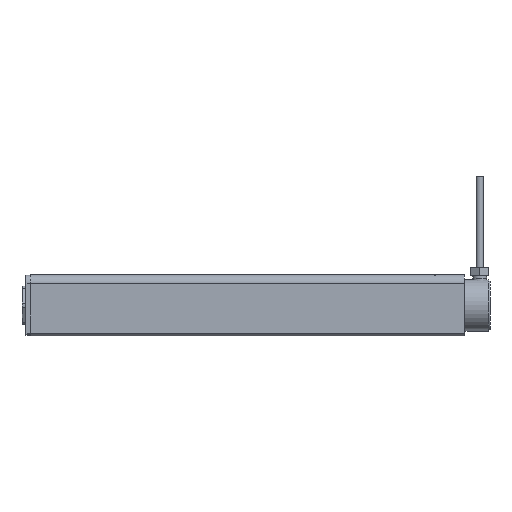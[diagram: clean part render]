
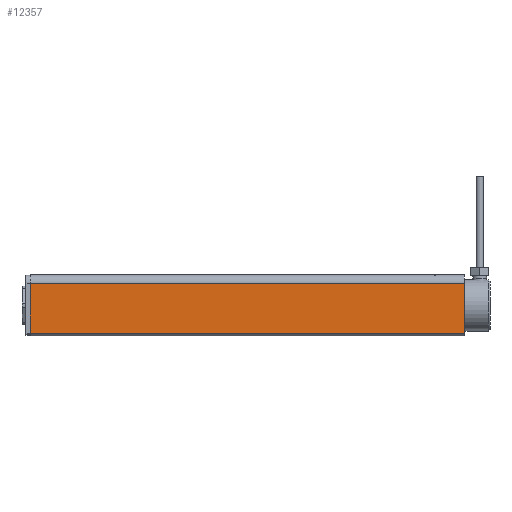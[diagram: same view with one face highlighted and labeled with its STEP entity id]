
A CAD part, left-side view. The second image highlights one B-rep face of the part: STEP entity #12357.
In plain terms, the highlighted planar face has unit normal (-1, 0, 0).
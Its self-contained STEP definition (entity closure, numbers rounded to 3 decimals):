
#627=PLANE('',#13211);
#863=LINE('',#18848,#1458);
#870=LINE('',#18870,#1465);
#891=LINE('',#18911,#1486);
#892=LINE('',#18912,#1487);
#1458=VECTOR('',#14304,1000.);
#1465=VECTOR('',#14319,1000.);
#1486=VECTOR('',#14346,1000.);
#1487=VECTOR('',#14347,1000.);
#2571=ORIENTED_EDGE('',*,*,#6044,.T.);
#2572=ORIENTED_EDGE('',*,*,#6067,.T.);
#2573=ORIENTED_EDGE('',*,*,#6034,.F.);
#2574=ORIENTED_EDGE('',*,*,#6068,.T.);
#6034=EDGE_CURVE('',#7781,#7782,#863,.T.);
#6044=EDGE_CURVE('',#7792,#7791,#870,.T.);
#6067=EDGE_CURVE('',#7791,#7782,#891,.F.);
#6068=EDGE_CURVE('',#7781,#7792,#892,.T.);
#7781=VERTEX_POINT('',#18849);
#7782=VERTEX_POINT('',#18850);
#7791=VERTEX_POINT('',#18869);
#7792=VERTEX_POINT('',#18871);
#9298=EDGE_LOOP('',(#2571,#2572,#2573,#2574));
#10217=FACE_BOUND('',#9298,.T.);
#12357=ADVANCED_FACE('',(#10217),#627,.F.);
#13211=AXIS2_PLACEMENT_3D('',#18910,#14344,#14345);
#14304=DIRECTION('',(0.,0.,1.));
#14319=DIRECTION('',(0.,0.,1.));
#14344=DIRECTION('',(1.,0.,0.));
#14345=DIRECTION('',(0.,0.,-1.));
#14346=DIRECTION('',(0.,-1.,0.));
#14347=DIRECTION('',(0.,-1.,0.));
#18848=CARTESIAN_POINT('',(-17.5,249.5,-17.5));
#18849=CARTESIAN_POINT('',(-17.5,249.5,-16.));
#18850=CARTESIAN_POINT('',(-17.5,249.5,12.5));
#18869=CARTESIAN_POINT('',(-17.5,0.,12.5));
#18870=CARTESIAN_POINT('',(-17.5,0.,-17.5));
#18871=CARTESIAN_POINT('',(-17.5,0.,-16.));
#18910=CARTESIAN_POINT('',(-17.5,249.5,-17.5));
#18911=CARTESIAN_POINT('',(-17.5,249.5,12.5));
#18912=CARTESIAN_POINT('',(-17.5,249.5,-16.));
